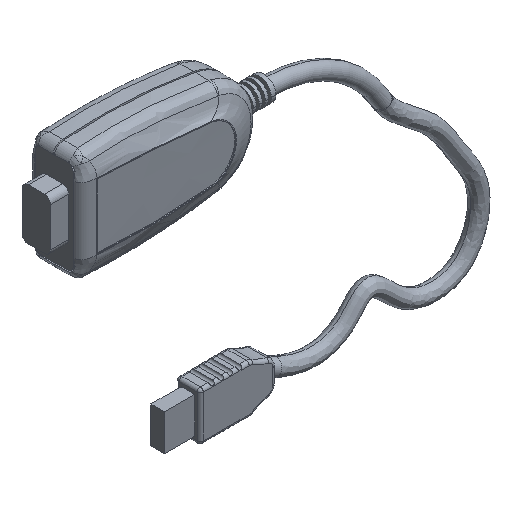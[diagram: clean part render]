
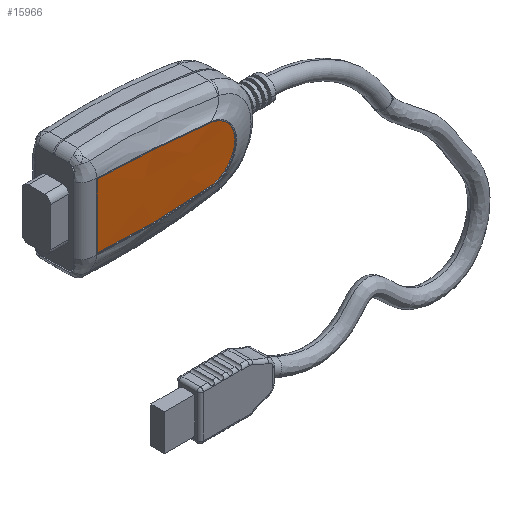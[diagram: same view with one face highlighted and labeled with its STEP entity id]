
A CAD part, isometric view. The second image highlights one B-rep face of the part: STEP entity #15966.
In plain terms, the highlighted face is a extrusion surface.
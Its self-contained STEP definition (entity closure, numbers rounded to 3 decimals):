
#3915=CARTESIAN_POINT('',(15.465,0.844,
-9.183));
#3916=CARTESIAN_POINT('',(11.416,0.882,
-9.626));
#3917=CARTESIAN_POINT('',(3.33,1.008,-10.325));
#3918=CARTESIAN_POINT('',(-8.74,1.385,
-10.827));
#3919=CARTESIAN_POINT('',(-16.726,1.783,
-10.805));
#3920=CARTESIAN_POINT('',(-20.7,2.022,
-10.708));
#3922=CARTESIAN_POINT('',(15.465,0.844,9.183));
#3923=CARTESIAN_POINT('',(16.099,0.838,9.114));
#3924=CARTESIAN_POINT('',(17.354,0.827,8.844));
#3925=CARTESIAN_POINT('',(19.122,0.816,8.055));
#3926=CARTESIAN_POINT('',(20.695,0.808,6.909));
#3927=CARTESIAN_POINT('',(21.982,0.804,5.48));
#3928=CARTESIAN_POINT('',(22.958,0.802,3.798));
#3929=CARTESIAN_POINT('',(23.562,0.801,1.948));
#3930=CARTESIAN_POINT('',(23.767,0.8,
0.017));
#3931=CARTESIAN_POINT('',(23.569,0.801,
-1.911));
#3932=CARTESIAN_POINT('',(22.975,0.802,
-3.759));
#3933=CARTESIAN_POINT('',(22.007,0.804,
-5.446));
#3934=CARTESIAN_POINT('',(20.719,0.808,
-6.888));
#3935=CARTESIAN_POINT('',(19.139,0.816,
-8.046));
#3936=CARTESIAN_POINT('',(17.36,0.827,
-8.843));
#3937=CARTESIAN_POINT('',(16.1,0.838,
-9.114));
#3938=CARTESIAN_POINT('',(15.465,0.844,
-9.183));
#3948=CARTESIAN_POINT('',(-20.7,2.022,10.708));
#3949=CARTESIAN_POINT('',(-16.726,1.783,10.805));
#3950=CARTESIAN_POINT('',(-8.74,1.385,10.827));
#3951=CARTESIAN_POINT('',(3.33,1.008,10.325));
#3952=CARTESIAN_POINT('',(11.416,0.882,9.626));
#3953=CARTESIAN_POINT('',(15.465,0.844,9.183));
#3955=DIRECTION('',(0.,0.,-1.));
#3956=VECTOR('',#3955,21.415);
#3957=CARTESIAN_POINT('',(-20.7,2.022,10.708));
#3958=LINE('',#3957,#3956);
#8748=CARTESIAN_POINT('',(15.465,0.844,
-9.183));
#8749=VERTEX_POINT('',#8748);
#8751=CARTESIAN_POINT('',(-20.7,2.022,
-10.708));
#8752=VERTEX_POINT('',#8751);
#8753=CARTESIAN_POINT('',(-20.7,2.022,10.708));
#8754=VERTEX_POINT('',#8753);
#8766=CARTESIAN_POINT('',(15.465,0.844,9.183));
#8767=VERTEX_POINT('',#8766);
#15952=CARTESIAN_POINT('',(24.144,0.8,
11.239));
#15953=CARTESIAN_POINT('',(9.037,0.816,
11.239));
#15954=CARTESIAN_POINT('',(-6.065,1.128,
11.239));
#15955=CARTESIAN_POINT('',(-21.143,2.049,
11.239));
#15957=DIRECTION('',(0.,0.,-1.));
#15958=VECTOR('',#15957,1.);
#15959=SURFACE_OF_LINEAR_EXTRUSION('',#15956,#15958);
#15960=ORIENTED_EDGE('',*,*,#15934,.T.);
#15961=ORIENTED_EDGE('',*,*,#15920,.T.);
#15962=ORIENTED_EDGE('',*,*,#15906,.F.);
#15963=ORIENTED_EDGE('',*,*,#15947,.T.);
#15964=EDGE_LOOP('',(#15960,#15961,#15962,#15963));
#15965=FACE_OUTER_BOUND('',#15964,.F.);
#15966=ADVANCED_FACE('',(#15965),#15959,.T.);
#3921=B_SPLINE_CURVE_WITH_KNOTS('',3,(#3915,#3916,#3917,#3918,#3919,#3920),
.UNSPECIFIED.,.F.,.F.,(4,1,1,4),(0.,0.333,0.667,1.),
.UNSPECIFIED.);
#3939=B_SPLINE_CURVE_WITH_KNOTS('',3,(#3922,#3923,#3924,#3925,#3926,#3927,#3928,
#3929,#3930,#3931,#3932,#3933,#3934,#3935,#3936,#3937,#3938),.UNSPECIFIED.,.F.,
.F.,(4,1,1,1,1,1,1,1,1,1,1,1,1,1,4),(0.,0.071,0.143,
0.214,0.286,0.357,0.429,0.5,
0.571,0.643,0.714,0.786,
0.857,0.929,1.),.UNSPECIFIED.);
#3954=B_SPLINE_CURVE_WITH_KNOTS('',3,(#3948,#3949,#3950,#3951,#3952,#3953),
.UNSPECIFIED.,.F.,.F.,(4,1,1,4),(0.,0.333,0.667,1.),
.UNSPECIFIED.);
#15906=EDGE_CURVE('',#8754,#8752,#3958,.T.);
#15920=EDGE_CURVE('',#8749,#8752,#3921,.T.);
#15934=EDGE_CURVE('',#8767,#8749,#3939,.T.);
#15947=EDGE_CURVE('',#8754,#8767,#3954,.T.);
#15956=B_SPLINE_CURVE_WITH_KNOTS('',3,(#15952,#15953,#15954,#15955),
.UNSPECIFIED.,.F.,.F.,(4,4),(0.,1.),.UNSPECIFIED.);
